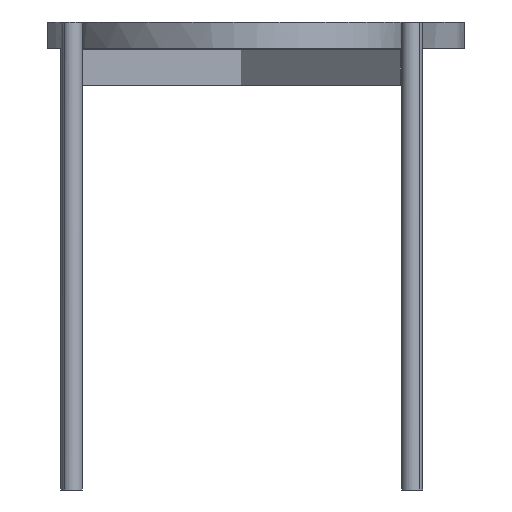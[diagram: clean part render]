
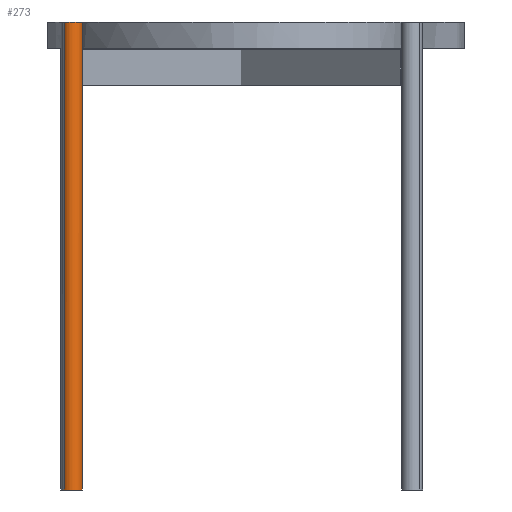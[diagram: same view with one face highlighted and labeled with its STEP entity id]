
A CAD part, left-side view. The second image highlights one B-rep face of the part: STEP entity #273.
In plain terms, the highlighted free-form (B-spline) face has degree [1, 2] with [2, 5] control points.
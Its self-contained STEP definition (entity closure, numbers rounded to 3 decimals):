
#35=(
BOUNDED_CURVE()
B_SPLINE_CURVE(2,(#1394,#1395,#1396,#1397,#1398),.UNSPECIFIED.,.F.,.F.)
B_SPLINE_CURVE_WITH_KNOTS((3,2,3),(-31.416,-15.708,0.),
 .UNSPECIFIED.)
CURVE()
GEOMETRIC_REPRESENTATION_ITEM()
RATIONAL_B_SPLINE_CURVE((1.,0.707,1.,0.707,1.))
REPRESENTATION_ITEM('')
);
#36=(
BOUNDED_CURVE()
B_SPLINE_CURVE(2,(#1399,#1400,#1401,#1402,#1403),.UNSPECIFIED.,.F.,.F.)
B_SPLINE_CURVE_WITH_KNOTS((3,2,3),(-31.416,-15.708,0.),
 .UNSPECIFIED.)
CURVE()
GEOMETRIC_REPRESENTATION_ITEM()
RATIONAL_B_SPLINE_CURVE((1.,0.707,1.,0.707,1.))
REPRESENTATION_ITEM('')
);
#37=(
BOUNDED_CURVE()
B_SPLINE_CURVE(2,(#1404,#1405,#1406,#1407,#1408),.UNSPECIFIED.,.F.,.F.)
B_SPLINE_CURVE_WITH_KNOTS((3,2,3),(0.,15.708,31.416),
 .UNSPECIFIED.)
CURVE()
GEOMETRIC_REPRESENTATION_ITEM()
RATIONAL_B_SPLINE_CURVE((1.,0.707,1.,0.707,1.))
REPRESENTATION_ITEM('')
);
#38=(
BOUNDED_CURVE()
B_SPLINE_CURVE(2,(#1409,#1410,#1411,#1412,#1413),.UNSPECIFIED.,.F.,.F.)
B_SPLINE_CURVE_WITH_KNOTS((3,2,3),(0.,15.708,31.416),
 .UNSPECIFIED.)
CURVE()
GEOMETRIC_REPRESENTATION_ITEM()
RATIONAL_B_SPLINE_CURVE((1.,0.707,1.,0.707,1.))
REPRESENTATION_ITEM('')
);
#41=(
BOUNDED_CURVE()
B_SPLINE_CURVE(1,(#1426,#1427),.UNSPECIFIED.,.F.,.F.)
B_SPLINE_CURVE_WITH_KNOTS((2,2),(0.,450.),.UNSPECIFIED.)
CURVE()
GEOMETRIC_REPRESENTATION_ITEM()
RATIONAL_B_SPLINE_CURVE((1.,1.))
REPRESENTATION_ITEM('')
);
#42=(
BOUNDED_CURVE()
B_SPLINE_CURVE(1,(#1432,#1433),.UNSPECIFIED.,.F.,.F.)
B_SPLINE_CURVE_WITH_KNOTS((2,2),(-450.,0.),.UNSPECIFIED.)
CURVE()
GEOMETRIC_REPRESENTATION_ITEM()
RATIONAL_B_SPLINE_CURVE((1.,1.))
REPRESENTATION_ITEM('')
);
#65=(
BOUNDED_SURFACE()
B_SPLINE_SURFACE(1,2,((#1360,#1361,#1362,#1363,#1364),(#1365,#1366,#1367,
#1368,#1369)),.UNSPECIFIED.,.F.,.F.,.F.)
B_SPLINE_SURFACE_WITH_KNOTS((2,2),(3,2,3),(0.,450.),(0.,15.708,
31.416),.UNSPECIFIED.)
GEOMETRIC_REPRESENTATION_ITEM()
RATIONAL_B_SPLINE_SURFACE(((1.,0.707,1.,0.707,1.),
(1.,0.707,1.,0.707,1.)))
REPRESENTATION_ITEM('')
SURFACE()
);
#66=(
BOUNDED_SURFACE()
B_SPLINE_SURFACE(1,2,((#1370,#1371,#1372,#1373,#1374),(#1375,#1376,#1377,
#1378,#1379)),.UNSPECIFIED.,.F.,.F.,.F.)
B_SPLINE_SURFACE_WITH_KNOTS((2,2),(3,2,3),(0.,450.),(31.416,47.124,
62.832),.UNSPECIFIED.)
GEOMETRIC_REPRESENTATION_ITEM()
RATIONAL_B_SPLINE_SURFACE(((1.,0.707,1.,0.707,1.),
(1.,0.707,1.,0.707,1.)))
REPRESENTATION_ITEM('')
SURFACE()
);
#273=ADVANCED_FACE('',(#306),#65,.T.);
#306=FACE_OUTER_BOUND('',#339,.T.);
#339=EDGE_LOOP('',(#400,#401,#402,#403));
#400=ORIENTED_EDGE('',*,*,#798,.F.);
#401=ORIENTED_EDGE('',*,*,#800,.T.);
#402=ORIENTED_EDGE('',*,*,#797,.F.);
#403=ORIENTED_EDGE('',*,*,#801,.T.);
#506=PCURVE('',#1070,#615);
#507=PCURVE('',#1071,#616);
#509=PCURVE('',#65,#618);
#510=PCURVE('',#65,#619);
#511=PCURVE('',#65,#620);
#512=PCURVE('',#65,#621);
#513=PCURVE('',#66,#622);
#515=PCURVE('',#66,#624);
#615=DEFINITIONAL_REPRESENTATION('',(#36),#2516);
#616=DEFINITIONAL_REPRESENTATION('',(#38),#2516);
#618=DEFINITIONAL_REPRESENTATION('',(#901),#2516);
#619=DEFINITIONAL_REPRESENTATION('',(#902),#2516);
#620=DEFINITIONAL_REPRESENTATION('',(#903),#2516);
#621=DEFINITIONAL_REPRESENTATION('',(#904),#2516);
#622=DEFINITIONAL_REPRESENTATION('',(#905),#2516);
#624=DEFINITIONAL_REPRESENTATION('',(#907),#2516);
#718=SURFACE_CURVE('',#35,(#506,#511),.PCURVE_S1.);
#719=SURFACE_CURVE('',#37,(#507,#509),.PCURVE_S1.);
#721=SURFACE_CURVE('',#41,(#510,#515),.PCURVE_S1.);
#722=SURFACE_CURVE('',#42,(#512,#513),.PCURVE_S1.);
#797=EDGE_CURVE('',#1024,#1021,#718,.T.);
#798=EDGE_CURVE('',#1022,#1023,#719,.T.);
#800=EDGE_CURVE('',#1022,#1021,#721,.T.);
#801=EDGE_CURVE('',#1024,#1023,#722,.T.);
#901=B_SPLINE_CURVE_WITH_KNOTS('',1,(#1424,#1425),.UNSPECIFIED.,.F.,.F.,
(2,2),(0.,31.416),.UNSPECIFIED.);
#902=B_SPLINE_CURVE_WITH_KNOTS('',1,(#1428,#1429),.UNSPECIFIED.,.F.,.F.,
(2,2),(0.,450.),.UNSPECIFIED.);
#903=B_SPLINE_CURVE_WITH_KNOTS('',1,(#1430,#1431),.UNSPECIFIED.,.F.,.F.,
(2,2),(-31.416,0.),.UNSPECIFIED.);
#904=B_SPLINE_CURVE_WITH_KNOTS('',1,(#1434,#1435),.UNSPECIFIED.,.F.,.F.,
(2,2),(-450.,0.),.UNSPECIFIED.);
#905=B_SPLINE_CURVE_WITH_KNOTS('',1,(#1436,#1437),.UNSPECIFIED.,.F.,.F.,
(2,2),(-450.,0.),.UNSPECIFIED.);
#907=B_SPLINE_CURVE_WITH_KNOTS('',1,(#1440,#1441),.UNSPECIFIED.,.F.,.F.,
(2,2),(0.,450.),.UNSPECIFIED.);
#1021=VERTEX_POINT('',#1380);
#1022=VERTEX_POINT('',#1381);
#1023=VERTEX_POINT('',#1382);
#1024=VERTEX_POINT('',#1383);
#1070=B_SPLINE_SURFACE_WITH_KNOTS('',1,1,((#1352,#1353),(#1354,#1355)),
 .UNSPECIFIED.,.F.,.F.,.F.,(2,2),(2,2),(-12.5,12.5),(-12.5,12.5),
 .UNSPECIFIED.);
#1071=B_SPLINE_SURFACE_WITH_KNOTS('',1,1,((#1356,#1357),(#1358,#1359)),
 .UNSPECIFIED.,.F.,.F.,.F.,(2,2),(2,2),(-12.5,12.5),(-12.5,12.5),
 .UNSPECIFIED.);
#1352=CARTESIAN_POINT('',(-134.904,215.09,0.));
#1353=CARTESIAN_POINT('',(-152.582,232.767,0.));
#1354=CARTESIAN_POINT('',(-152.582,197.412,0.));
#1355=CARTESIAN_POINT('',(-170.26,215.09,0.));
#1356=CARTESIAN_POINT('',(-134.904,215.09,450.));
#1357=CARTESIAN_POINT('',(-152.582,197.412,450.));
#1358=CARTESIAN_POINT('',(-152.582,232.767,450.));
#1359=CARTESIAN_POINT('',(-170.26,215.09,450.));
#1360=CARTESIAN_POINT('',(-159.653,222.161,450.));
#1361=CARTESIAN_POINT('',(-166.724,215.09,450.));
#1362=CARTESIAN_POINT('',(-159.653,208.019,450.));
#1363=CARTESIAN_POINT('',(-152.582,200.948,450.));
#1364=CARTESIAN_POINT('',(-145.511,208.019,450.));
#1365=CARTESIAN_POINT('',(-159.653,222.161,0.));
#1366=CARTESIAN_POINT('',(-166.724,215.09,0.));
#1367=CARTESIAN_POINT('',(-159.653,208.019,0.));
#1368=CARTESIAN_POINT('',(-152.582,200.948,0.));
#1369=CARTESIAN_POINT('',(-145.511,208.019,0.));
#1370=CARTESIAN_POINT('',(-145.511,208.019,450.));
#1371=CARTESIAN_POINT('',(-138.44,215.09,450.));
#1372=CARTESIAN_POINT('',(-145.511,222.161,450.));
#1373=CARTESIAN_POINT('',(-152.582,229.232,450.));
#1374=CARTESIAN_POINT('',(-159.653,222.161,450.));
#1375=CARTESIAN_POINT('',(-145.511,208.019,0.));
#1376=CARTESIAN_POINT('',(-138.44,215.09,0.));
#1377=CARTESIAN_POINT('',(-145.511,222.161,0.));
#1378=CARTESIAN_POINT('',(-152.582,229.232,0.));
#1379=CARTESIAN_POINT('',(-159.653,222.161,0.));
#1380=CARTESIAN_POINT('',(-159.653,222.161,0.));
#1381=CARTESIAN_POINT('',(-159.653,222.161,450.));
#1382=CARTESIAN_POINT('',(-145.511,208.019,450.));
#1383=CARTESIAN_POINT('',(-145.511,208.019,0.));
#1394=CARTESIAN_POINT('',(-145.511,208.019,0.));
#1395=CARTESIAN_POINT('',(-152.582,200.948,0.));
#1396=CARTESIAN_POINT('',(-159.653,208.019,0.));
#1397=CARTESIAN_POINT('',(-166.724,215.09,0.));
#1398=CARTESIAN_POINT('',(-159.653,222.161,0.));
#1399=CARTESIAN_POINT('',(0.,-10.));
#1400=CARTESIAN_POINT('',(10.,-10.));
#1401=CARTESIAN_POINT('',(10.,0.));
#1402=CARTESIAN_POINT('',(10.,10.));
#1403=CARTESIAN_POINT('',(0.,10.));
#1404=CARTESIAN_POINT('',(-159.653,222.161,450.));
#1405=CARTESIAN_POINT('',(-166.724,215.09,450.));
#1406=CARTESIAN_POINT('',(-159.653,208.019,450.));
#1407=CARTESIAN_POINT('',(-152.582,200.948,450.));
#1408=CARTESIAN_POINT('',(-145.511,208.019,450.));
#1409=CARTESIAN_POINT('',(10.,0.));
#1410=CARTESIAN_POINT('',(10.,10.));
#1411=CARTESIAN_POINT('',(0.,10.));
#1412=CARTESIAN_POINT('',(-10.,10.));
#1413=CARTESIAN_POINT('',(-10.,0.));
#1424=CARTESIAN_POINT('',(0.,0.));
#1425=CARTESIAN_POINT('',(0.,31.416));
#1426=CARTESIAN_POINT('',(-159.653,222.161,450.));
#1427=CARTESIAN_POINT('',(-159.653,222.161,0.));
#1428=CARTESIAN_POINT('',(0.,0.));
#1429=CARTESIAN_POINT('',(450.,0.));
#1430=CARTESIAN_POINT('',(450.,31.416));
#1431=CARTESIAN_POINT('',(450.,0.));
#1432=CARTESIAN_POINT('',(-145.511,208.019,0.));
#1433=CARTESIAN_POINT('',(-145.511,208.019,450.));
#1434=CARTESIAN_POINT('',(450.,31.416));
#1435=CARTESIAN_POINT('',(0.,31.416));
#1436=CARTESIAN_POINT('',(450.,31.416));
#1437=CARTESIAN_POINT('',(0.,31.416));
#1440=CARTESIAN_POINT('',(0.,62.832));
#1441=CARTESIAN_POINT('',(450.,62.832));
#2516=(
GEOMETRIC_REPRESENTATION_CONTEXT(2)
PARAMETRIC_REPRESENTATION_CONTEXT()
REPRESENTATION_CONTEXT('pspace','')
);
